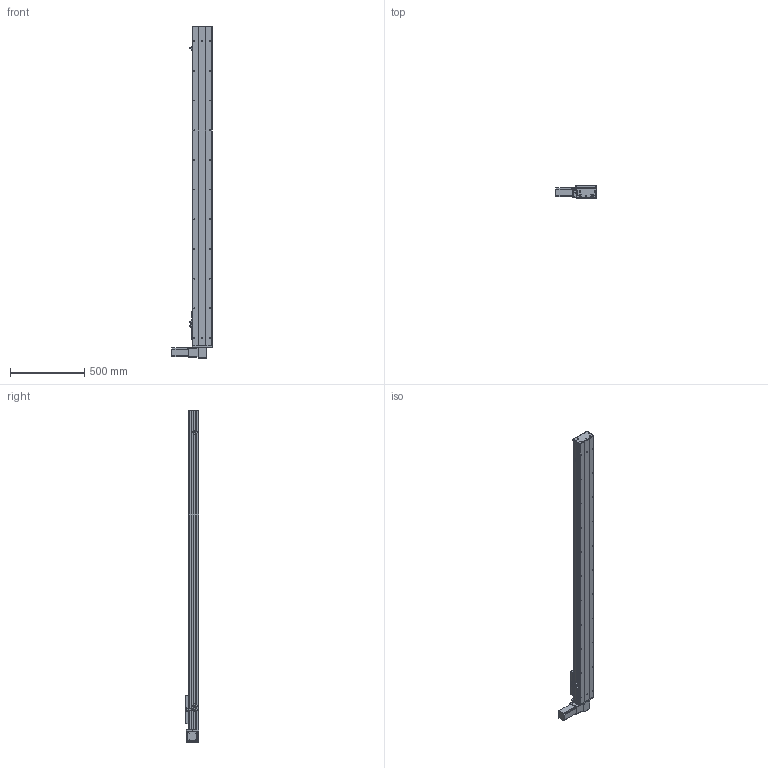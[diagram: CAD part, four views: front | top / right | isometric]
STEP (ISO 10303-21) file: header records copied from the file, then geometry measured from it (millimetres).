
FILE_DESCRIPTION (( 'STEP AP203' ), '1' );
FILE_NAME ('Y135CB-D90-S1850-BD-P400W.STEP', '2020-02-19T03:51:39', ( '微软用户' ), ( '微软中国' ), 'SwSTEP 2.0', 'SolidWorks 2017', '' );
FILE_SCHEMA (( 'CONFIG_CONTROL_DESIGN' ));
Length unit declared in the file: millimetre
Products named in the file (16): C-雄赽釱--; 0B-源倛裔啣; Y10B--々湍喘謫眊--666; san松下电机400不带刹车----; 0B-薊粣ん眊; 5CB --掛极耜裔啣-; Y135CB-D90-S1850-BD-P400W; C-詩湍揤踡え-陔; 135CB--詩湍-CE; Y135CB-耜裔; Y100-135俋离換覜ん--; 135CB---遴掛极.-; Y135C-陔俋离換覜結え-; 35CB---喘謫眊楊擘啣; 5C--俋欶; 0B-埴倛裔啣
Assembly tree (19 placements, depth 2):
  Y135CB-D90-S1850-BD-P400W
    Y135CB-耜裔
    135CB---遴掛极.-
    35CB---喘謫眊楊擘啣
    0B-埴倛裔啣
    0B-源倛裔啣
    san松下电机400不带刹车----
    5CB --掛极耜裔啣-  x2
    C-詩湍揤踡え-陔  x2
    135CB--詩湍-CE
    Y100-135俋离換覜ん--  x3
    Y135C-陔俋离換覜結え-
    5C--俋欶
    C-雄赽釱--
    Y10B--々湍喘謫眊--666
    0B-薊粣ん眊
Bounding box: 272 x 91 x 2238 mm (x, y, z)
Volume: 6594223.9 mm3; surface area: 2558615.4 mm2
Topology: 19 solids, 19 shells, 871 faces, 2338 edges, 1548 vertices
Faces by surface type: cylinder 440, plane 415, cone 16
Entity records: 26814 total; most frequent: DIRECTION 4470, CARTESIAN_POINT 4423, ORIENTED_EDGE 4152, EDGE_CURVE 2076, AXIS2_PLACEMENT_3D 1643, VERTEX_POINT 1376, LINE 1184, VECTOR 1184
